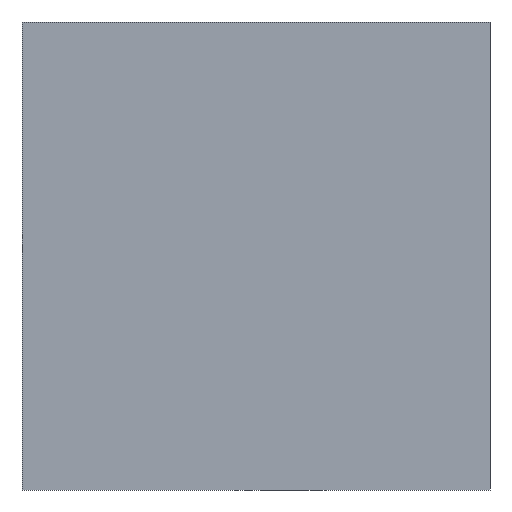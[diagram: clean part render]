
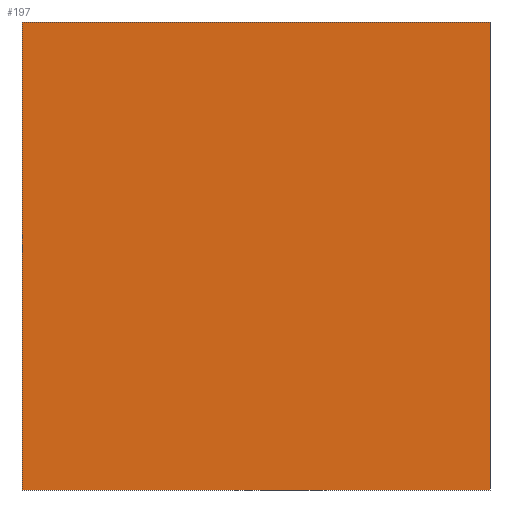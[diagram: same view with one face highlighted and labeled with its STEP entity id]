
A CAD part, left-side view. The second image highlights one B-rep face of the part: STEP entity #197.
In plain terms, the highlighted planar face has unit normal (-1, 0, 0).
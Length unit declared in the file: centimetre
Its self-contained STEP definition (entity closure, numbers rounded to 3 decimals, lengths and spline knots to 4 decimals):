
#1 = EDGE_LOOP ( 'NONE', ( #1334, #269, #875, #391 ) ) ;
#88 = CARTESIAN_POINT ( 'NONE',  ( 0., 1000., 0. ) ) ;
#100 = DIRECTION ( 'NONE',  ( 0., 0., -1. ) ) ;
#117 = EDGE_CURVE ( 'NONE', #473, #1102, #1115, .T. ) ;
#139 = VECTOR ( 'NONE', #924, 100. ) ;
#168 = CARTESIAN_POINT ( 'NONE',  ( 0., 1000., 1000. ) ) ;
#197 = ADVANCED_FACE ( 'NONE', ( #353 ), #779, .F. ) ;
#202 = CARTESIAN_POINT ( 'NONE',  ( 0., 0., 1000. ) ) ;
#232 = DIRECTION ( 'NONE',  ( 0., -1., 0. ) ) ;
#269 = ORIENTED_EDGE ( 'NONE', *, *, #511, .F. ) ;
#294 = VECTOR ( 'NONE', #100, 100. ) ;
#300 = CARTESIAN_POINT ( 'NONE',  ( 0., 1000., 1000. ) ) ;
#353 = FACE_OUTER_BOUND ( 'NONE', #1, .T. ) ;
#389 = CARTESIAN_POINT ( 'NONE',  ( 0., 0., 0. ) ) ;
#391 = ORIENTED_EDGE ( 'NONE', *, *, #400, .T. ) ;
#393 = DIRECTION ( 'NONE',  ( 0., 0., -1. ) ) ;
#400 = EDGE_CURVE ( 'NONE', #1340, #473, #1278, .T. ) ;
#473 = VERTEX_POINT ( 'NONE', #88 ) ;
#511 = EDGE_CURVE ( 'NONE', #1306, #1102, #850, .T. ) ;
#516 = DIRECTION ( 'NONE',  ( 0., 0., -1. ) ) ;
#672 = VECTOR ( 'NONE', #232, 100. ) ;
#708 = CARTESIAN_POINT ( 'NONE',  ( 0., 1000., 1000. ) ) ;
#726 = CARTESIAN_POINT ( 'NONE',  ( 0., 1000., 1000. ) ) ;
#773 = CARTESIAN_POINT ( 'NONE',  ( 0., 1000., 0. ) ) ;
#779 = PLANE ( 'NONE',  #1324 ) ;
#850 = LINE ( 'NONE', #1049, #855 ) ;
#855 = VECTOR ( 'NONE', #516, 100. ) ;
#856 = EDGE_CURVE ( 'NONE', #1340, #1306, #1240, .T. ) ;
#875 = ORIENTED_EDGE ( 'NONE', *, *, #856, .F. ) ;
#924 = DIRECTION ( 'NONE',  ( 0., -1., 0. ) ) ;
#1049 = CARTESIAN_POINT ( 'NONE',  ( 0., 0., 1000. ) ) ;
#1102 = VERTEX_POINT ( 'NONE', #389 ) ;
#1115 = LINE ( 'NONE', #773, #672 ) ;
#1237 = DIRECTION ( 'NONE',  ( 1., 0., 0. ) ) ;
#1240 = LINE ( 'NONE', #168, #139 ) ;
#1278 = LINE ( 'NONE', #726, #294 ) ;
#1306 = VERTEX_POINT ( 'NONE', #202 ) ;
#1324 = AXIS2_PLACEMENT_3D ( 'NONE', #708, #1237, #393 ) ;
#1334 = ORIENTED_EDGE ( 'NONE', *, *, #117, .T. ) ;
#1340 = VERTEX_POINT ( 'NONE', #300 ) ;
